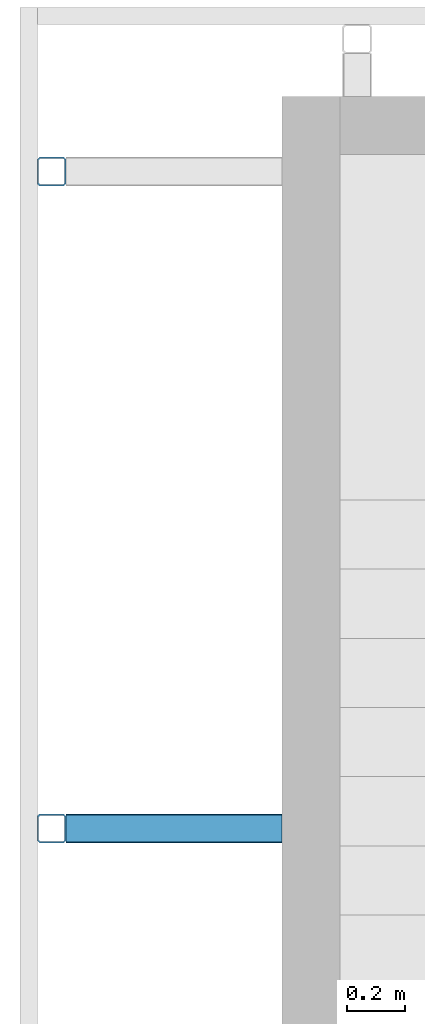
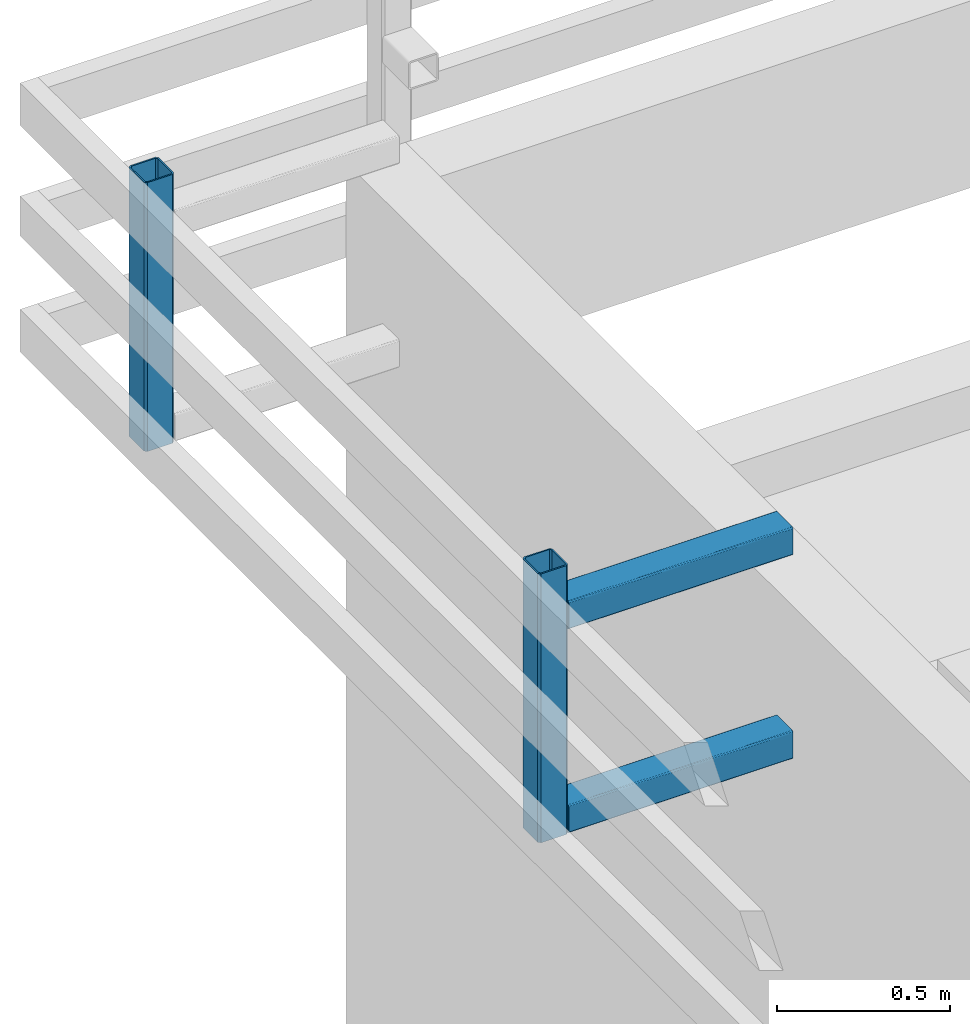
# One storey, part 14 of 44: 4 members.
"""IFC4 building model written with IfcOpenShell, lengths in metres."""

import ifcopenshell
import ifcopenshell.guid

model = None  # the IFC model being written
_history = None  # IfcOwnerHistory: only IFC2X3 demands one
_inside = {}  # id of a spatial element -> (the spatial element, [elements in it])
_under = {}  # id of a project, library or spatial element -> (it, [spatial elements below it])
_declared = {}  # id of a project -> (the project, [libraries it declares])
_typed = {}  # id of a type object -> (the type object, [elements of that type])
_made_of = {}  # id of a material, layer set ... -> (it, [elements and type objects made of it])


def new_model(schema):
    """Start an empty IFC model of exactly this schema.

    Asked for "IFC4X3", IfcOpenShell would pick the latest addendum, in which some entities
    have other attributes; the version numbers below select the first issue.
    IFC2X3 requires an IfcOwnerHistory on every rooted entity: one is made here for all.
    """
    global model, _history
    if schema == "IFC4X3":
        model = ifcopenshell.file(schema_version=(4, 3, 0, 0))
    else:
        model = ifcopenshell.file(schema=schema)
    _inside.clear()
    _under.clear()
    _declared.clear()
    _typed.clear()
    _made_of.clear()
    _history = None
    if model.schema == "IFC2X3":
        org = make("IfcOrganization", Name="unknown")
        user = make(
            "IfcPersonAndOrganization",
            ThePerson=make("IfcPerson", FamilyName="unknown"),
            TheOrganization=org,
        )
        app = make(
            "IfcApplication",
            ApplicationDeveloper=org,
            Version="unknown",
            ApplicationFullName="unknown",
            ApplicationIdentifier="unknown",
        )
        _history = make(
            "IfcOwnerHistory",
            OwningUser=user,
            OwningApplication=app,
            ChangeAction="ADDED",
            CreationDate=0,
        )
    return model


def make(cls, **values):
    """One entity of the class cls with the attributes given. An attribute that is None is left unset."""
    return model.create_entity(
        cls, **{name: value for name, value in values.items() if value is not None}
    )


def entity(cls, *values):
    """Any entity or typed value of the class cls, its attributes in the order of the schema. None: left unset."""
    e = model.create_entity(cls)
    for i, value in enumerate(values):
        if value is not None:
            e[i] = value
    return e


def rooted(cls, **values):
    """An entity with a GlobalId (a new one), such as an element, a storey or a relation."""
    return make(cls, GlobalId=ifcopenshell.guid.new(), OwnerHistory=_history, **values)


def si_unit(unit_type, name, prefix=None):
    """IfcSIUnit, for example si_unit("LENGTHUNIT", "METRE", prefix="MILLI")."""
    return make("IfcSIUnit", UnitType=unit_type, Prefix=prefix, Name=name)


def converted_unit(unit_type, name, factor, base, dimensions=None, offset=None):
    """IfcConversionBasedUnit, such as the inch: factor (a typed value) times the base unit."""
    return make(
        "IfcConversionBasedUnit"
        if offset is None
        else "IfcConversionBasedUnitWithOffset",
        ConversionOffset=offset,
        Dimensions=None
        if dimensions is None
        else entity("IfcDimensionalExponents", *dimensions),
        UnitType=unit_type,
        Name=name,
        ConversionFactor=make(
            "IfcMeasureWithUnit", ValueComponent=factor, UnitComponent=base
        ),
    )


def derived_unit(unit_type, elements):
    """IfcDerivedUnit: a product of units, each with its exponent."""
    return make(
        "IfcDerivedUnit",
        Elements=[
            make("IfcDerivedUnitElement", Unit=unit, Exponent=power)
            for unit, power in elements
        ],
        UnitType=unit_type,
    )


def assignment(units):
    """IfcUnitAssignment: the units of a project."""
    return None if units is None else make("IfcUnitAssignment", Units=units)


def point(xyz):
    """IfcCartesianPoint."""
    return None if xyz is None else make("IfcCartesianPoint", Coordinates=xyz)


def direction(xyz):
    """IfcDirection."""
    return None if xyz is None else make("IfcDirection", DirectionRatios=xyz)


def frame(location, z_axis=None, x_axis=None):
    """IfcAxis2Placement3D, a coordinate frame: its origin and axes. An axis left out is left unset."""
    return make(
        "IfcAxis2Placement3D",
        Location=point(location),
        Axis=direction(z_axis),
        RefDirection=direction(x_axis),
    )


def origin():
    """The frame at (0, 0, 0) with its axes left unset."""
    return frame((0.0, 0.0, 0.0))


def place(relative_to, where):
    """IfcLocalPlacement: puts the frame where relative to a parent placement (None: the world)."""
    return make(
        "IfcLocalPlacement", PlacementRelTo=relative_to, RelativePlacement=where
    )


def context(
    kind, dimensions, precision=None, world=None, true_north=None, identifier=None
):
    """IfcGeometricRepresentationContext, for example the 3D "Model" context."""
    return make(
        "IfcGeometricRepresentationContext",
        ContextIdentifier=identifier,
        ContextType=kind,
        CoordinateSpaceDimension=dimensions,
        Precision=precision,
        WorldCoordinateSystem=world,
        TrueNorth=true_north,
    )


def subcontext(parent, identifier, kind, view, scale=None):
    """IfcGeometricRepresentationSubContext, for example "Body" below "Model"."""
    return make(
        "IfcGeometricRepresentationSubContext",
        ContextIdentifier=identifier,
        ContextType=kind,
        ParentContext=parent,
        TargetScale=scale,
        TargetView=view,
    )


def project(units=None, contexts=None):
    """IfcProject with its units and contexts."""
    return rooted(
        "IfcProject",
        Name="project",
        RepresentationContexts=contexts,
        UnitsInContext=assignment(units),
    )


def spatial(cls, under=None, at=None, **own):
    """A site, building, storey or space (cls), placed at a placement, below another one or the project."""
    s = rooted(cls, ObjectPlacement=at, **own)
    if under is not None:
        _under.setdefault(under.id(), (under, []))[1].append(s)
    return s


def faces_of(points, faces, orient=None, outer=None):
    """IfcFace entities. A face is a list of loops; a loop is a list of indices into points, from 0.

    orient and outer hold one flag for each loop. By default every Orientation is true, the
    first loop of a face is its IfcFaceOuterBound and the others are IfcFaceBound.
    """
    made = []
    for i, loops in enumerate(faces):
        bounds = []
        for j, loop in enumerate(loops):
            is_outer = j == 0 if outer is None else outer[i][j]
            bounds.append(
                make(
                    "IfcFaceOuterBound" if is_outer else "IfcFaceBound",
                    Bound=make("IfcPolyLoop", Polygon=[points[k] for k in loop]),
                    Orientation=True if orient is None else orient[i][j],
                )
            )
        made.append(make("IfcFace", Bounds=bounds))
    return made


def faceted_brep(points, faces, orient=None, outer=None, voids=None):
    """IfcFacetedBrep: a solid bounded by flat faces; with voids (closed shells), ...WithVoids."""
    shared = [point(p) for p in points]
    hull = make("IfcClosedShell", CfsFaces=faces_of(shared, faces, orient, outer))
    if voids is None:
        return make("IfcFacetedBrep", Outer=hull)
    return make(
        "IfcFacetedBrepWithVoids",
        Outer=hull,
        Voids=[
            make(cls, CfsFaces=faces_of(shared, fs, o, b)) for cls, fs, o, b in voids
        ],
    )


def shape(context_of_items, identifier, shape_type, items):
    """IfcShapeRepresentation: the items that make up one representation, for example the "Body"."""
    return make(
        "IfcShapeRepresentation",
        ContextOfItems=context_of_items,
        RepresentationIdentifier=identifier,
        RepresentationType=shape_type,
        Items=items,
    )


def material(Name=None, Category=None):
    """IfcMaterial."""
    return make("IfcMaterial", Name=Name, Category=Category)


def made_of(thing, what):
    """Note that an element or type object is made of a material, layer set ...; save() writes the relation."""
    if what is not None:
        _made_of.setdefault(what.id(), (what, []))[1].append(thing)
    return thing


def element(
    cls,
    number,
    at=None,
    inside=None,
    cuts=None,
    type_object=None,
    material=None,
    context=None,
    identifier="Body",
    shape_type=None,
    held_by="IfcProductDefinitionShape",
    body=None,
    shapes=None,
    **own,
):
    """One element of the class cls, such as IfcWall. Its Tag is "e" and its number.

    at: its placement. inside: the storey or other place that contains it. cuts: it is an
    opening in that element (IfcRelVoidsElement). A single representation is given by context,
    identifier, shape_type and body (its items); several are given by shapes. held_by: the class
    of the entity that holds the representations. save() writes the other relations.
    """
    e = rooted(cls, Tag="e%d" % number, ObjectPlacement=at, **own)
    if body is not None:
        shapes = [shape(context, identifier, shape_type, body)]
    if shapes is not None:
        e.Representation = make(held_by, Representations=shapes)
    if inside is not None:
        _inside.setdefault(inside.id(), (inside, []))[1].append(e)
    if cuts is not None:
        rooted(
            "IfcRelVoidsElement", RelatingBuildingElement=cuts, RelatedOpeningElement=e
        )
    if type_object is not None:
        _typed.setdefault(type_object.id(), (type_object, []))[1].append(e)
    return made_of(e, material)


def aggregate(whole, parts):
    """IfcRelAggregates: a whole, such as a stair, and the parts it consists of."""
    return rooted("IfcRelAggregates", RelatingObject=whole, RelatedObjects=parts)


def save(model, path):
    """Write the relations noted so far, then the file.

    IfcRelAggregates (storeys below a building ...), IfcRelContainedInSpatialStructure (elements
    in a storey), IfcRelDefinesByType, IfcRelAssociatesMaterial and IfcRelDeclares: one each for
    every whole, place, type object, material and project.
    """
    for whole, parts in _under.values():
        aggregate(whole, parts)
    for where, things in _inside.values():
        rooted(
            "IfcRelContainedInSpatialStructure",
            RelatedElements=things,
            RelatingStructure=where,
        )
    for kind, things in _typed.values():
        rooted("IfcRelDefinesByType", RelatedObjects=things, RelatingType=kind)
    for what, things in _made_of.values():
        rooted("IfcRelAssociatesMaterial", RelatedObjects=things, RelatingMaterial=what)
    for by, libraries in _declared.values():
        rooted("IfcRelDeclares", RelatingContext=by, RelatedDefinitions=libraries)
    model.write(path)


model = new_model("IFC4")

# Units and contexts
model_context = context("Model", 3, precision=1e-05, world=origin())
plan_context = context("Plan", 2, precision=1e-05, world=origin())
body_context = subcontext(model_context, "Body", "Model", "MODEL_VIEW")
ifc_project = project(units=[si_unit("LENGTHUNIT", "METRE"), si_unit("AREAUNIT", "SQUARE_METRE"), si_unit("VOLUMEUNIT", "CUBIC_METRE"), si_unit("MASSUNIT", "GRAM", prefix="KILO"), converted_unit("PLANEANGLEUNIT", "DEGREE", entity("IfcPlaneAngleMeasure", 0.0174532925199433), si_unit("PLANEANGLEUNIT", "RADIAN"), dimensions=[0, 0, 0, 0, 0, 0, 0]), derived_unit("THERMALTRANSMITTANCEUNIT", [(si_unit("POWERUNIT", "WATT"), 1), (si_unit("THERMODYNAMICTEMPERATUREUNIT", "KELVIN"), -1), (si_unit("LENGTHUNIT", "METRE"), -2)]), derived_unit("VOLUMETRICFLOWRATEUNIT", [(si_unit("LENGTHUNIT", "METRE"), 3), (converted_unit("TIMEUNIT", "hour", entity("IfcTimeMeasure", 3600.0), si_unit("TIMEUNIT", "SECOND"), dimensions=[0, 0, 1, 0, 0, 0, 0]), -1), (si_unit("LENGTHUNIT", "METRE"), -1)])], contexts=[model_context, plan_context])

# Site, building, storey
site_placement = place(None, origin())
site = spatial("IfcSite", under=ifc_project, at=site_placement, Name="Site", CompositionType="ELEMENT")
building_placement = place(site_placement, origin())
building = spatial("IfcBuilding", under=site, at=building_placement, Name="Admin", CompositionType="ELEMENT")
storey_placement = place(building_placement, frame((0.0, 0.0, 3.25)))
storey = spatial("IfcBuildingStorey", under=building, at=storey_placement, Name="01-Etage1", CompositionType="ELEMENT", Elevation=3.25)

# Members
ifc_material_1 = material(Name="S235")
member_1_placement = place(storey_placement, frame((23.149800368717, 19.7594493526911, 2.82)))
element("IfcMember", 1, at=member_1_placement, inside=storey, material=ifc_material_1, Name="Bandeau R+1", context=body_context, shape_type="Brep", body=[
    faceted_brep([(0.0950000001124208, 0.0900000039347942, 0.0), (0.0950000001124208, 0.0900000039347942, 0.95), (0.0950000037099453, 0.0100000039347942, 0.95), (0.0950000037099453, 0.0100000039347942, 0.0), (0.0899999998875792, 0.0950000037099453, 0.0), (0.0899999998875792, 0.0950000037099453, 0.95), (0.00999999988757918, 0.0950000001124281, 0.0), (0.00999999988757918, 0.0950000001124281, 0.95), (0.00500000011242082, 0.0899999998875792, 0.0), (0.00500000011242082, 0.0899999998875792, 0.95), (0.0050000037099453, 0.00999999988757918, 0.0), (0.0050000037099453, 0.00999999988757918, 0.95), (0.0100000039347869, 0.0050000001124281, 0.0), (0.0100000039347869, 0.0050000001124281, 0.95), (0.090000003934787, 0.0050000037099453, 0.0), (0.090000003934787, 0.0050000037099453, 0.95), (0.0925000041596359, 3.82237340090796e-09, 0.0), (0.0925000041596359, 3.82237340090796e-09, 0.95), (0.100000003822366, 0.00750000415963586, 0.95), (0.100000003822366, 0.00750000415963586, 0.0), (0.00750000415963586, 0.0, 0.0), (0.00750000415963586, 0.0, 0.95), (3.82236612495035e-09, 0.00749999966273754, 0.0), (3.82236612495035e-09, 0.00749999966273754, 0.95), (0.0, 0.0924999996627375, 0.0), (0.0, 0.0924999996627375, 0.95), (0.00749999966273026, 0.1, 0.0), (0.00749999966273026, 0.1, 0.95), (0.0924999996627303, 0.100000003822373, 0.0), (0.0924999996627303, 0.100000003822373, 0.95), (0.1, 0.0925000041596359, 0.0), (0.1, 0.0925000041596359, 0.95)], [[[0, 1, 2, 3]], [[4, 5, 1, 0]], [[6, 7, 5, 4]], [[8, 9, 7, 6]], [[10, 11, 9, 8]], [[12, 13, 11, 10]], [[14, 15, 13, 12]], [[3, 2, 15, 14]], [[16, 17, 18, 19]], [[20, 21, 17, 16]], [[22, 23, 21, 20]], [[24, 25, 23, 22]], [[26, 27, 25, 24]], [[28, 29, 27, 26]], [[30, 31, 29, 28]], [[19, 18, 31, 30]], [[18, 17, 21, 23, 25, 27, 29, 31], [2, 1, 5, 7, 9, 11, 13, 15]], [[19, 30, 28, 26, 24, 22, 20, 16], [3, 14, 12, 10, 8, 6, 4, 0]]], orient=[[False], [False], [False], [False], [False], [False], [False], [False], [False], [False], [False], [False], [False], [False], [False], [False], [False, False], [False, False]]),
])
ifc_material_2 = material(Name="S235")
member_2_placement = place(storey_placement, frame((23.149800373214, 22.0394493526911, 2.82)))
element("IfcMember", 2, at=member_2_placement, inside=storey, material=ifc_material_2, Name="Bandeau R+1", context=body_context, shape_type="Brep", body=[
    faceted_brep([(0.0950000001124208, 0.0900000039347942, 0.0), (0.0950000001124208, 0.0900000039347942, 0.95), (0.0950000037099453, 0.0100000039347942, 0.95), (0.0950000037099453, 0.0100000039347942, 0.0), (0.0899999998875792, 0.0950000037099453, 0.0), (0.0899999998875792, 0.0950000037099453, 0.95), (0.00999999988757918, 0.0950000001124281, 0.0), (0.00999999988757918, 0.0950000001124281, 0.95), (0.00500000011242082, 0.0899999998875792, 0.0), (0.00500000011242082, 0.0899999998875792, 0.95), (0.0050000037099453, 0.00999999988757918, 0.0), (0.0050000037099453, 0.00999999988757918, 0.95), (0.0100000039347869, 0.0050000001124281, 0.0), (0.0100000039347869, 0.0050000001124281, 0.95), (0.090000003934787, 0.0050000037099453, 0.0), (0.090000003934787, 0.0050000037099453, 0.95), (0.0925000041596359, 3.82237340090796e-09, 0.0), (0.0925000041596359, 3.82237340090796e-09, 0.95), (0.100000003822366, 0.00750000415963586, 0.95), (0.100000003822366, 0.00750000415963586, 0.0), (0.00750000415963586, 0.0, 0.0), (0.00750000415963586, 0.0, 0.95), (3.82236612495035e-09, 0.00749999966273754, 0.0), (3.82236612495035e-09, 0.00749999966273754, 0.95), (0.0, 0.0924999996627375, 0.0), (0.0, 0.0924999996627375, 0.95), (0.00749999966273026, 0.1, 0.0), (0.00749999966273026, 0.1, 0.95), (0.0924999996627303, 0.100000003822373, 0.0), (0.0924999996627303, 0.100000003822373, 0.95), (0.1, 0.0925000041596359, 0.0), (0.1, 0.0925000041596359, 0.95)], [[[0, 1, 2, 3]], [[4, 5, 1, 0]], [[6, 7, 5, 4]], [[8, 9, 7, 6]], [[10, 11, 9, 8]], [[12, 13, 11, 10]], [[14, 15, 13, 12]], [[3, 2, 15, 14]], [[16, 17, 18, 19]], [[20, 21, 17, 16]], [[22, 23, 21, 20]], [[24, 25, 23, 22]], [[26, 27, 25, 24]], [[28, 29, 27, 26]], [[30, 31, 29, 28]], [[19, 18, 31, 30]], [[18, 17, 21, 23, 25, 27, 29, 31], [2, 1, 5, 7, 9, 11, 13, 15]], [[19, 30, 28, 26, 24, 22, 20, 16], [3, 14, 12, 10, 8, 6, 4, 0]]], orient=[[False], [False], [False], [False], [False], [False], [False], [False], [False], [False], [False], [False], [False], [False], [False], [False], [False, False], [False, False]]),
])
ifc_material_3 = material(Name="S235")
member_3_placement = place(storey_placement, frame((23.2498003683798, 19.7594493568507, 2.82)))
element("IfcMember", 3, at=member_3_placement, inside=storey, material=ifc_material_3, Name="Bandeau R+1", context=body_context, shape_type="Brep", body=[
    faceted_brep([(4.27205304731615e-09, 0.005, 0.09), (4.27205304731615e-09, 0.005, 0.01), (0.75000000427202, 0.00500003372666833, 0.01), (0.75000000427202, 0.00500003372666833, 0.09), (4.26863698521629e-09, 0.00507596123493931, 0.0908682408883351), (0.750000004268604, 0.00507599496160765, 0.0908682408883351), (4.25849430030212e-09, 0.00530153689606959, 0.0917101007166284), (0.750000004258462, 0.00530157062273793, 0.0917101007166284), (4.24193058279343e-09, 0.00566987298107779, 0.0925), (0.750000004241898, 0.00566990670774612, 0.0925), (4.21945151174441e-09, 0.0061697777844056, 0.0932139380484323), (0.750000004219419, 0.00616981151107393, 0.0932139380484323), (4.19173738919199e-09, 0.00678606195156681, 0.0938302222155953), (0.750000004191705, 0.00678609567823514, 0.0938302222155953), (4.1596322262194e-09, 0.0075, 0.0943301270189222), (0.7500000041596, 0.00750003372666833, 0.0943301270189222), (4.12411100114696e-09, 0.00828989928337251, 0.0946984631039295), (0.750000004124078, 0.00828993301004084, 0.0946984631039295), (4.08625419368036e-09, 0.009131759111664, 0.0949240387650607), (0.750000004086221, 0.00913179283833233, 0.0949240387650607), (4.04720776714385e-09, 0.01, 0.095), (0.750000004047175, 0.0100000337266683, 0.095), (4.49697836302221e-10, 0.09, 0.095), (0.750000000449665, 0.0900000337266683, 0.095), (4.10655047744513e-10, 0.090868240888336, 0.0949240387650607), (0.750000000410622, 0.0908682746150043, 0.0949240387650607), (3.72798240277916e-10, 0.0917101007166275, 0.0946984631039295), (0.750000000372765, 0.0917101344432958, 0.0946984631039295), (3.37277015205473e-10, 0.0925, 0.0943301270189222), (0.750000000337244, 0.0925000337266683, 0.0943301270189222), (3.05171852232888e-10, 0.0932139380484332, 0.0938302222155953), (0.750000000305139, 0.0932139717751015, 0.0938302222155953), (2.77457729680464e-10, 0.0938302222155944, 0.0932139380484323), (0.750000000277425, 0.0938302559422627, 0.0932139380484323), (2.54978658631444e-10, 0.0943301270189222, 0.0925), (0.750000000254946, 0.0943301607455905, 0.0925), (2.38414941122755e-10, 0.0946984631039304, 0.0917101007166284), (0.750000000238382, 0.0946984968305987, 0.0917101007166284), (2.28268618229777e-10, 0.0949240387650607, 0.0908682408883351), (0.750000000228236, 0.094924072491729, 0.0908682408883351), (2.24852556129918e-10, 0.095, 0.09), (0.75000000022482, 0.0950000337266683, 0.09), (2.24852556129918e-10, 0.095, 0.01), (0.75000000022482, 0.0950000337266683, 0.01), (2.28268618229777e-10, 0.0949240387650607, 0.00913175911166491), (0.750000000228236, 0.094924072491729, 0.00913175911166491), (2.38414941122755e-10, 0.0946984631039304, 0.0082898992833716), (0.750000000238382, 0.0946984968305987, 0.0082898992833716), (2.54978658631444e-10, 0.0943301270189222, 0.0075), (0.750000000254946, 0.0943301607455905, 0.0075), (2.77457729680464e-10, 0.0938302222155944, 0.00678606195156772), (0.750000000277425, 0.0938302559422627, 0.00678606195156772), (3.05171852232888e-10, 0.0932139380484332, 0.00616977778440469), (0.750000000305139, 0.0932139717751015, 0.00616977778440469), (3.37277015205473e-10, 0.0925, 0.00566987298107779), (0.750000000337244, 0.0925000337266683, 0.00566987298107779), (3.72798240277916e-10, 0.0917101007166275, 0.0053015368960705), (0.750000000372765, 0.0917101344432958, 0.0053015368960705), (4.10655047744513e-10, 0.090868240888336, 0.00507596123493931), (0.750000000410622, 0.0908682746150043, 0.00507596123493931), (4.49697836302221e-10, 0.09, 0.005), (0.750000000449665, 0.0900000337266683, 0.005), (4.04720776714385e-09, 0.01, 0.005), (0.750000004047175, 0.0100000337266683, 0.005), (4.08625419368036e-09, 0.009131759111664, 0.00507596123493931), (0.750000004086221, 0.00913179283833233, 0.00507596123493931), (4.12411100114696e-09, 0.00828989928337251, 0.0053015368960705), (0.750000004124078, 0.00828993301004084, 0.0053015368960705), (4.1596322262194e-09, 0.0075, 0.00566987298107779), (0.7500000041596, 0.00750003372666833, 0.00566987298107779), (4.19173738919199e-09, 0.00678606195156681, 0.00616977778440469), (0.750000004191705, 0.00678609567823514, 0.00616977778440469), (4.21945151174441e-09, 0.0061697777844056, 0.00678606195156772), (0.750000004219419, 0.00616981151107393, 0.00678606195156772), (4.24193058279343e-09, 0.00566987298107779, 0.0075), (0.750000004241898, 0.00566990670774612, 0.0075), (4.25849430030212e-09, 0.00530153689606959, 0.0082898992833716), (0.750000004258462, 0.00530157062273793, 0.0082898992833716), (4.26863698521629e-09, 0.00507596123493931, 0.00913175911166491), (0.750000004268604, 0.00507599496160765, 0.00913175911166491), (3.37277015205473e-10, 0.0925, 0.1), (2.78709194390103e-10, 0.0938023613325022, 0.0998860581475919), (0.750000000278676, 0.0938023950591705, 0.0998860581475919), (0.750000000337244, 0.0925000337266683, 0.1), (4.1596322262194e-09, 0.0075, 0.1), (0.7500000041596, 0.00750003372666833, 0.1), (4.21819640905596e-09, 0.00619763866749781, 0.0998860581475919), (0.750000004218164, 0.00619767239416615, 0.0998860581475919), (4.27498525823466e-09, 0.00493484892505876, 0.0995476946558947), (0.750000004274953, 0.00493488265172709, 0.0995476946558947), (4.32826345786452e-09, 0.00375, 0.0989951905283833), (0.750000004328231, 0.00375003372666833, 0.0989951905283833), (4.3764230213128e-09, 0.00267909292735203, 0.0982453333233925), (0.75000000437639, 0.00267912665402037, 0.0982453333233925), (4.41799420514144e-09, 0.00175466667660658, 0.0973209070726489), (0.750000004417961, 0.00175470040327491, 0.0973209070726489), (4.45171463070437e-09, 0.0010048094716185, 0.09625), (0.750000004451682, 0.00100484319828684, 0.09625), (4.476558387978e-09, 0.000452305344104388, 0.0950651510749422), (0.750000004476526, 0.000452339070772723, 0.0950651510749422), (4.49177605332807e-09, 0.000113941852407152, 0.0938023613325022), (0.750000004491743, 0.000113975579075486, 0.0938023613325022), (4.49689832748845e-09, -3.63797880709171e-15, 0.0925), (0.750000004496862, 3.37266683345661e-08, 0.0925), (4.49177605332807e-09, 0.000113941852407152, 0.00619763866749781), (4.49689832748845e-09, 0.0, 0.0075), (0.750000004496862, 3.37266683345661e-08, 0.0075), (0.750000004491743, 0.000113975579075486, 0.00619763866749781), (4.476558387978e-09, 0.000452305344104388, 0.00493484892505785), (0.750000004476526, 0.000452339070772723, 0.00493484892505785), (4.45171463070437e-09, 0.0010048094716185, 0.00375), (0.750000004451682, 0.00100484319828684, 0.00375), (4.41799420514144e-09, 0.00175466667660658, 0.00267909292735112), (0.750000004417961, 0.00175470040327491, 0.00267909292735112), (4.3764230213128e-09, 0.00267909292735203, 0.00175466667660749), (0.75000000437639, 0.00267912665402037, 0.00175466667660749), (4.32826345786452e-09, 0.00375, 0.00100480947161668), (0.750000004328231, 0.00375003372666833, 0.00100480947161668), (4.27498525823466e-09, 0.00493484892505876, 0.000452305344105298), (0.750000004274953, 0.00493488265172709, 0.000452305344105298), (4.21819640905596e-09, 0.00619763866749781, 0.000113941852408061), (0.750000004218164, 0.00619767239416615, 0.000113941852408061), (4.1596322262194e-09, 0.0075, 0.0), (0.7500000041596, 0.00750003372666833, 0.0), (3.37277015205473e-10, 0.0925, 0.0), (0.750000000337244, 0.0925000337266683, 0.0), (2.78709194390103e-10, 0.0938023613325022, 0.000113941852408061), (0.750000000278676, 0.0938023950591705, 0.000113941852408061), (2.21923983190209e-10, 0.0950651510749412, 0.000452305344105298), (0.750000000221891, 0.0950651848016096, 0.000452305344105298), (1.68642145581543e-10, 0.09625, 0.00100480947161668), (0.750000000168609, 0.0962500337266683, 0.00100480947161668), (1.2048622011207e-10, 0.097320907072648, 0.00175466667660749), (0.750000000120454, 0.0973209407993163, 0.00175466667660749), (7.89150362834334e-11, 0.0982453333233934, 0.00267909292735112), (0.750000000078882, 0.0982453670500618, 0.00267909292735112), (4.51946107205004e-11, 0.0989951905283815, 0.00375), (0.750000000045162, 0.0989952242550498, 0.00375), (2.0347215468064e-11, 0.0995476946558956, 0.00493484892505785), (0.750000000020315, 0.099547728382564, 0.00493484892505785), (5.13318809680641e-12, 0.0998860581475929, 0.00619763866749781), (0.7500000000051, 0.0998860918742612, 0.00619763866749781), (0.0, 0.1, 0.0075), (0.749999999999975, 0.100000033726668, 0.0075), (5.13318809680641e-12, 0.0998860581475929, 0.0938023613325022), (0.0, 0.1, 0.0925), (0.749999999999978, 0.100000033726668, 0.0925), (0.7500000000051, 0.0998860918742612, 0.0938023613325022), (2.0347215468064e-11, 0.0995476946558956, 0.0950651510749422), (0.750000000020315, 0.099547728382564, 0.0950651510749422), (4.51946107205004e-11, 0.0989951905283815, 0.09625), (0.750000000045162, 0.0989952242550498, 0.09625), (7.89150362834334e-11, 0.0982453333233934, 0.0973209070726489), (0.750000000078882, 0.0982453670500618, 0.0973209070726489), (1.2048622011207e-10, 0.097320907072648, 0.0982453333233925), (0.750000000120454, 0.0973209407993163, 0.0982453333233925), (1.68642145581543e-10, 0.09625, 0.0989951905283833), (0.750000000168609, 0.0962500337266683, 0.0989951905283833), (2.21923983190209e-10, 0.0950651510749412, 0.0995476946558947), (0.750000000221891, 0.0950651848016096, 0.0995476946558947)], [[[0, 1, 2, 3]], [[4, 0, 3, 5]], [[6, 4, 5, 7]], [[8, 6, 7, 9]], [[10, 8, 9, 11]], [[12, 10, 11, 13]], [[14, 12, 13, 15]], [[16, 14, 15, 17]], [[18, 16, 17, 19]], [[20, 18, 19, 21]], [[22, 20, 21, 23]], [[24, 22, 23, 25]], [[26, 24, 25, 27]], [[28, 26, 27, 29]], [[30, 28, 29, 31]], [[32, 30, 31, 33]], [[34, 32, 33, 35]], [[36, 34, 35, 37]], [[38, 36, 37, 39]], [[40, 38, 39, 41]], [[42, 40, 41, 43]], [[44, 42, 43, 45]], [[46, 44, 45, 47]], [[48, 46, 47, 49]], [[50, 48, 49, 51]], [[52, 50, 51, 53]], [[54, 52, 53, 55]], [[56, 54, 55, 57]], [[58, 56, 57, 59]], [[60, 58, 59, 61]], [[62, 60, 61, 63]], [[64, 62, 63, 65]], [[66, 64, 65, 67]], [[68, 66, 67, 69]], [[70, 68, 69, 71]], [[72, 70, 71, 73]], [[74, 72, 73, 75]], [[76, 74, 75, 77]], [[78, 76, 77, 79]], [[1, 78, 79, 2]], [[80, 81, 82, 83]], [[84, 80, 83, 85]], [[86, 84, 85, 87]], [[88, 86, 87, 89]], [[90, 88, 89, 91]], [[92, 90, 91, 93]], [[94, 92, 93, 95]], [[96, 94, 95, 97]], [[98, 96, 97, 99]], [[100, 98, 99, 101]], [[102, 100, 101, 103]], [[104, 105, 106, 107]], [[108, 104, 107, 109]], [[110, 108, 109, 111]], [[112, 110, 111, 113]], [[114, 112, 113, 115]], [[116, 114, 115, 117]], [[118, 116, 117, 119]], [[120, 118, 119, 121]], [[122, 120, 121, 123]], [[124, 122, 123, 125]], [[126, 124, 125, 127]], [[128, 126, 127, 129]], [[130, 128, 129, 131]], [[132, 130, 131, 133]], [[134, 132, 133, 135]], [[136, 134, 135, 137]], [[138, 136, 137, 139]], [[140, 138, 139, 141]], [[142, 140, 141, 143]], [[144, 145, 146, 147]], [[148, 144, 147, 149]], [[150, 148, 149, 151]], [[152, 150, 151, 153]], [[154, 152, 153, 155]], [[156, 154, 155, 157]], [[158, 156, 157, 159]], [[81, 158, 159, 82]], [[146, 143, 141, 139, 137, 135, 133, 131, 129, 127, 125, 123, 121, 119, 117, 115, 113, 111, 109, 107, 106, 103, 101, 99, 97, 95, 93, 91, 89, 87, 85, 83, 82, 159, 157, 155, 153, 151, 149, 147], [2, 79, 77, 75, 73, 71, 69, 67, 65, 63, 61, 59, 57, 55, 53, 51, 49, 47, 45, 43, 41, 39, 37, 35, 33, 31, 29, 27, 25, 23, 21, 19, 17, 15, 13, 11, 9, 7, 5, 3]], [[103, 106, 105, 102]], [[102, 105, 104, 108, 110, 112, 114, 116, 118, 120, 122, 124, 126, 128, 130, 132, 134, 136, 138, 140, 142, 145, 144, 148, 150, 152, 154, 156, 158, 81, 80, 84, 86, 88, 90, 92, 94, 96, 98, 100], [1, 0, 4, 6, 8, 10, 12, 14, 16, 18, 20, 22, 24, 26, 28, 30, 32, 34, 36, 38, 40, 42, 44, 46, 48, 50, 52, 54, 56, 58, 60, 62, 64, 66, 68, 70, 72, 74, 76, 78]], [[145, 142, 143, 146]]], orient=[[False], [False], [False], [False], [False], [False], [False], [False], [False], [False], [False], [False], [False], [False], [False], [False], [False], [False], [False], [False], [False], [False], [False], [False], [False], [False], [False], [False], [False], [False], [False], [False], [False], [False], [False], [False], [False], [False], [False], [False], [False], [False], [False], [False], [False], [False], [False], [False], [False], [False], [False], [False], [False], [False], [False], [False], [False], [False], [False], [False], [False], [False], [False], [False], [False], [False], [False], [False], [False], [False], [False], [False], [False], [False], [False], [False], [False], [False], [False, False], [False], [False, False], [False]]),
])
ifc_material_4 = material(Name="S235")
member_4_placement = place(storey_placement, frame((23.2498003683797, 19.7594493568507, 3.54)))
element("IfcMember", 4, at=member_4_placement, inside=storey, material=ifc_material_4, Name="Bandeau R+1", context=body_context, shape_type="Brep", body=[
    faceted_brep([(4.27205304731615e-09, 0.005, 0.09), (4.27205304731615e-09, 0.005, 0.01), (0.750000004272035, 0.00500003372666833, 0.01), (0.750000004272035, 0.00500003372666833, 0.09), (4.26863698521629e-09, 0.00507596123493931, 0.0908682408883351), (0.750000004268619, 0.00507599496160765, 0.0908682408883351), (4.25849430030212e-09, 0.00530153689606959, 0.0917101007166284), (0.750000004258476, 0.00530157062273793, 0.0917101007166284), (4.24193058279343e-09, 0.00566987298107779, 0.0925), (0.750000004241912, 0.00566990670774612, 0.0925), (4.21945151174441e-09, 0.0061697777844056, 0.0932139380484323), (0.750000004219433, 0.00616981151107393, 0.0932139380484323), (4.19173738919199e-09, 0.00678606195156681, 0.0938302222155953), (0.750000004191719, 0.00678609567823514, 0.0938302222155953), (4.1596322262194e-09, 0.0075, 0.0943301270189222), (0.750000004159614, 0.00750003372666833, 0.0943301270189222), (4.12411100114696e-09, 0.00828989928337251, 0.0946984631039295), (0.750000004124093, 0.00828993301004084, 0.0946984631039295), (4.08625419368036e-09, 0.009131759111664, 0.0949240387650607), (0.750000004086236, 0.00913179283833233, 0.0949240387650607), (4.04720776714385e-09, 0.01, 0.095), (0.75000000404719, 0.0100000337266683, 0.095), (4.49697836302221e-10, 0.09, 0.095), (0.75000000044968, 0.0900000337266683, 0.095), (4.10655047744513e-10, 0.090868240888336, 0.0949240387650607), (0.750000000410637, 0.0908682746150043, 0.0949240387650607), (3.72798240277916e-10, 0.0917101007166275, 0.0946984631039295), (0.75000000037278, 0.0917101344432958, 0.0946984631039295), (3.37277015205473e-10, 0.0925, 0.0943301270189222), (0.750000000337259, 0.0925000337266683, 0.0943301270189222), (3.05171852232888e-10, 0.0932139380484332, 0.0938302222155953), (0.750000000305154, 0.0932139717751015, 0.0938302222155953), (2.77457729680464e-10, 0.0938302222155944, 0.0932139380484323), (0.75000000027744, 0.0938302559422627, 0.0932139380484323), (2.54978658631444e-10, 0.0943301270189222, 0.0925), (0.75000000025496, 0.0943301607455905, 0.0925), (2.38414941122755e-10, 0.0946984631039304, 0.0917101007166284), (0.750000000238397, 0.0946984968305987, 0.0917101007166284), (2.28268618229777e-10, 0.0949240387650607, 0.0908682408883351), (0.75000000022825, 0.094924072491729, 0.0908682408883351), (2.24852556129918e-10, 0.095, 0.09), (0.750000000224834, 0.0950000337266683, 0.09), (2.24852556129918e-10, 0.095, 0.01), (0.750000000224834, 0.0950000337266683, 0.01), (2.28268618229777e-10, 0.0949240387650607, 0.00913175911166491), (0.75000000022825, 0.094924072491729, 0.00913175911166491), (2.38414941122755e-10, 0.0946984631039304, 0.0082898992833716), (0.750000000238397, 0.0946984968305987, 0.0082898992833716), (2.54978658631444e-10, 0.0943301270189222, 0.0075), (0.75000000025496, 0.0943301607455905, 0.0075), (2.77457729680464e-10, 0.0938302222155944, 0.00678606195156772), (0.75000000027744, 0.0938302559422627, 0.00678606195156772), (3.05171852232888e-10, 0.0932139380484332, 0.00616977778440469), (0.750000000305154, 0.0932139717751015, 0.00616977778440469), (3.37277015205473e-10, 0.0925, 0.00566987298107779), (0.750000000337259, 0.0925000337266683, 0.00566987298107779), (3.72798240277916e-10, 0.0917101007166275, 0.0053015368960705), (0.75000000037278, 0.0917101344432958, 0.0053015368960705), (4.10655047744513e-10, 0.090868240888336, 0.00507596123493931), (0.750000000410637, 0.0908682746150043, 0.00507596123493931), (4.49697836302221e-10, 0.09, 0.005), (0.75000000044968, 0.0900000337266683, 0.005), (4.04720776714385e-09, 0.01, 0.005), (0.75000000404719, 0.0100000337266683, 0.005), (4.08625419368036e-09, 0.009131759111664, 0.00507596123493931), (0.750000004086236, 0.00913179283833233, 0.00507596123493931), (4.12411100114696e-09, 0.00828989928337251, 0.0053015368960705), (0.750000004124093, 0.00828993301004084, 0.0053015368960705), (4.1596322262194e-09, 0.0075, 0.00566987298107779), (0.750000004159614, 0.00750003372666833, 0.00566987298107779), (4.19173738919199e-09, 0.00678606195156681, 0.00616977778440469), (0.750000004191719, 0.00678609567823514, 0.00616977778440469), (4.21945151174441e-09, 0.0061697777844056, 0.00678606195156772), (0.750000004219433, 0.00616981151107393, 0.00678606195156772), (4.24193058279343e-09, 0.00566987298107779, 0.0075), (0.750000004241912, 0.00566990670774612, 0.0075), (4.25849430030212e-09, 0.00530153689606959, 0.0082898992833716), (0.750000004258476, 0.00530157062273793, 0.0082898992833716), (4.26863698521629e-09, 0.00507596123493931, 0.00913175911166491), (0.750000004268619, 0.00507599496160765, 0.00913175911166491), (3.37277015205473e-10, 0.0925, 0.1), (2.78709194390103e-10, 0.0938023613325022, 0.0998860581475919), (0.750000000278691, 0.0938023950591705, 0.0998860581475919), (0.750000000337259, 0.0925000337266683, 0.1), (4.1596322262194e-09, 0.0075, 0.1), (0.750000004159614, 0.00750003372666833, 0.1), (4.21819640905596e-09, 0.00619763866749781, 0.0998860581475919), (0.750000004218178, 0.00619767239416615, 0.0998860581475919), (4.27498525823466e-09, 0.00493484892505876, 0.0995476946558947), (0.750000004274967, 0.00493488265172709, 0.0995476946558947), (4.32826345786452e-09, 0.00375, 0.0989951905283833), (0.750000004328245, 0.00375003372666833, 0.0989951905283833), (4.3764230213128e-09, 0.00267909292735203, 0.0982453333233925), (0.750000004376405, 0.00267912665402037, 0.0982453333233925), (4.41799420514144e-09, 0.00175466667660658, 0.0973209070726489), (0.750000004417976, 0.00175470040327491, 0.0973209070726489), (4.45171463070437e-09, 0.0010048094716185, 0.09625), (0.750000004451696, 0.00100484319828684, 0.09625), (4.476558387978e-09, 0.000452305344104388, 0.0950651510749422), (0.75000000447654, 0.000452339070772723, 0.0950651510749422), (4.49177605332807e-09, 0.000113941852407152, 0.0938023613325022), (0.750000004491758, 0.000113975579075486, 0.0938023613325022), (4.49689832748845e-09, -3.63797880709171e-15, 0.0925), (0.750000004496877, 3.37266683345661e-08, 0.0925), (4.49177605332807e-09, 0.000113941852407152, 0.00619763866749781), (4.49689832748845e-09, 0.0, 0.0075), (0.750000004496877, 3.37266683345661e-08, 0.0075), (0.750000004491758, 0.000113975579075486, 0.00619763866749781), (4.476558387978e-09, 0.000452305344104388, 0.00493484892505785), (0.75000000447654, 0.000452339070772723, 0.00493484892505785), (4.45171463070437e-09, 0.0010048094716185, 0.00375), (0.750000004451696, 0.00100484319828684, 0.00375), (4.41799420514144e-09, 0.00175466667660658, 0.00267909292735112), (0.750000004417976, 0.00175470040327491, 0.00267909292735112), (4.3764230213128e-09, 0.00267909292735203, 0.00175466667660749), (0.750000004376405, 0.00267912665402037, 0.00175466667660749), (4.32826345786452e-09, 0.00375, 0.00100480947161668), (0.750000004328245, 0.00375003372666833, 0.00100480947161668), (4.27498525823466e-09, 0.00493484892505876, 0.000452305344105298), (0.750000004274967, 0.00493488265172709, 0.000452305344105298), (4.21819640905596e-09, 0.00619763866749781, 0.000113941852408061), (0.750000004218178, 0.00619767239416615, 0.000113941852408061), (4.1596322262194e-09, 0.0075, 0.0), (0.750000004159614, 0.00750003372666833, 0.0), (3.37277015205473e-10, 0.0925, 0.0), (0.750000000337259, 0.0925000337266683, 0.0), (2.78709194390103e-10, 0.0938023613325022, 0.000113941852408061), (0.750000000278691, 0.0938023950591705, 0.000113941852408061), (2.21923983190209e-10, 0.0950651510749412, 0.000452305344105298), (0.750000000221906, 0.0950651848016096, 0.000452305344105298), (1.68642145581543e-10, 0.09625, 0.00100480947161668), (0.750000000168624, 0.0962500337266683, 0.00100480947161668), (1.2048622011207e-10, 0.097320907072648, 0.00175466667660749), (0.750000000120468, 0.0973209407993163, 0.00175466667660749), (7.89150362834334e-11, 0.0982453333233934, 0.00267909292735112), (0.750000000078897, 0.0982453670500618, 0.00267909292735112), (4.51946107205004e-11, 0.0989951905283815, 0.00375), (0.750000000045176, 0.0989952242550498, 0.00375), (2.0347215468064e-11, 0.0995476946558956, 0.00493484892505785), (0.750000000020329, 0.099547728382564, 0.00493484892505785), (5.13318809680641e-12, 0.0998860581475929, 0.00619763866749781), (0.750000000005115, 0.0998860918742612, 0.00619763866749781), (0.0, 0.1, 0.0075), (0.749999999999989, 0.100000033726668, 0.0075), (5.13318809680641e-12, 0.0998860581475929, 0.0938023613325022), (0.0, 0.1, 0.0925), (0.749999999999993, 0.100000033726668, 0.0925), (0.750000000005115, 0.0998860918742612, 0.0938023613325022), (2.0347215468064e-11, 0.0995476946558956, 0.0950651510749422), (0.750000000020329, 0.099547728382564, 0.0950651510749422), (4.51946107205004e-11, 0.0989951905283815, 0.09625), (0.750000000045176, 0.0989952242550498, 0.09625), (7.89150362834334e-11, 0.0982453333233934, 0.0973209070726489), (0.750000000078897, 0.0982453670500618, 0.0973209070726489), (1.2048622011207e-10, 0.097320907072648, 0.0982453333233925), (0.750000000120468, 0.0973209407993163, 0.0982453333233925), (1.68642145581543e-10, 0.09625, 0.0989951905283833), (0.750000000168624, 0.0962500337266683, 0.0989951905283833), (2.21923983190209e-10, 0.0950651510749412, 0.0995476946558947), (0.750000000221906, 0.0950651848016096, 0.0995476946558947)], [[[0, 1, 2, 3]], [[4, 0, 3, 5]], [[6, 4, 5, 7]], [[8, 6, 7, 9]], [[10, 8, 9, 11]], [[12, 10, 11, 13]], [[14, 12, 13, 15]], [[16, 14, 15, 17]], [[18, 16, 17, 19]], [[20, 18, 19, 21]], [[22, 20, 21, 23]], [[24, 22, 23, 25]], [[26, 24, 25, 27]], [[28, 26, 27, 29]], [[30, 28, 29, 31]], [[32, 30, 31, 33]], [[34, 32, 33, 35]], [[36, 34, 35, 37]], [[38, 36, 37, 39]], [[40, 38, 39, 41]], [[42, 40, 41, 43]], [[44, 42, 43, 45]], [[46, 44, 45, 47]], [[48, 46, 47, 49]], [[50, 48, 49, 51]], [[52, 50, 51, 53]], [[54, 52, 53, 55]], [[56, 54, 55, 57]], [[58, 56, 57, 59]], [[60, 58, 59, 61]], [[62, 60, 61, 63]], [[64, 62, 63, 65]], [[66, 64, 65, 67]], [[68, 66, 67, 69]], [[70, 68, 69, 71]], [[72, 70, 71, 73]], [[74, 72, 73, 75]], [[76, 74, 75, 77]], [[78, 76, 77, 79]], [[1, 78, 79, 2]], [[80, 81, 82, 83]], [[84, 80, 83, 85]], [[86, 84, 85, 87]], [[88, 86, 87, 89]], [[90, 88, 89, 91]], [[92, 90, 91, 93]], [[94, 92, 93, 95]], [[96, 94, 95, 97]], [[98, 96, 97, 99]], [[100, 98, 99, 101]], [[102, 100, 101, 103]], [[104, 105, 106, 107]], [[108, 104, 107, 109]], [[110, 108, 109, 111]], [[112, 110, 111, 113]], [[114, 112, 113, 115]], [[116, 114, 115, 117]], [[118, 116, 117, 119]], [[120, 118, 119, 121]], [[122, 120, 121, 123]], [[124, 122, 123, 125]], [[126, 124, 125, 127]], [[128, 126, 127, 129]], [[130, 128, 129, 131]], [[132, 130, 131, 133]], [[134, 132, 133, 135]], [[136, 134, 135, 137]], [[138, 136, 137, 139]], [[140, 138, 139, 141]], [[142, 140, 141, 143]], [[144, 145, 146, 147]], [[148, 144, 147, 149]], [[150, 148, 149, 151]], [[152, 150, 151, 153]], [[154, 152, 153, 155]], [[156, 154, 155, 157]], [[158, 156, 157, 159]], [[81, 158, 159, 82]], [[146, 143, 141, 139, 137, 135, 133, 131, 129, 127, 125, 123, 121, 119, 117, 115, 113, 111, 109, 107, 106, 103, 101, 99, 97, 95, 93, 91, 89, 87, 85, 83, 82, 159, 157, 155, 153, 151, 149, 147], [2, 79, 77, 75, 73, 71, 69, 67, 65, 63, 61, 59, 57, 55, 53, 51, 49, 47, 45, 43, 41, 39, 37, 35, 33, 31, 29, 27, 25, 23, 21, 19, 17, 15, 13, 11, 9, 7, 5, 3]], [[103, 106, 105, 102]], [[102, 105, 104, 108, 110, 112, 114, 116, 118, 120, 122, 124, 126, 128, 130, 132, 134, 136, 138, 140, 142, 145, 144, 148, 150, 152, 154, 156, 158, 81, 80, 84, 86, 88, 90, 92, 94, 96, 98, 100], [1, 0, 4, 6, 8, 10, 12, 14, 16, 18, 20, 22, 24, 26, 28, 30, 32, 34, 36, 38, 40, 42, 44, 46, 48, 50, 52, 54, 56, 58, 60, 62, 64, 66, 68, 70, 72, 74, 76, 78]], [[145, 142, 143, 146]]], orient=[[False], [False], [False], [False], [False], [False], [False], [False], [False], [False], [False], [False], [False], [False], [False], [False], [False], [False], [False], [False], [False], [False], [False], [False], [False], [False], [False], [False], [False], [False], [False], [False], [False], [False], [False], [False], [False], [False], [False], [False], [False], [False], [False], [False], [False], [False], [False], [False], [False], [False], [False], [False], [False], [False], [False], [False], [False], [False], [False], [False], [False], [False], [False], [False], [False], [False], [False], [False], [False], [False], [False], [False], [False], [False], [False], [False], [False], [False], [False, False], [False], [False, False], [False]]),
])

save(model, "model.ifc")
